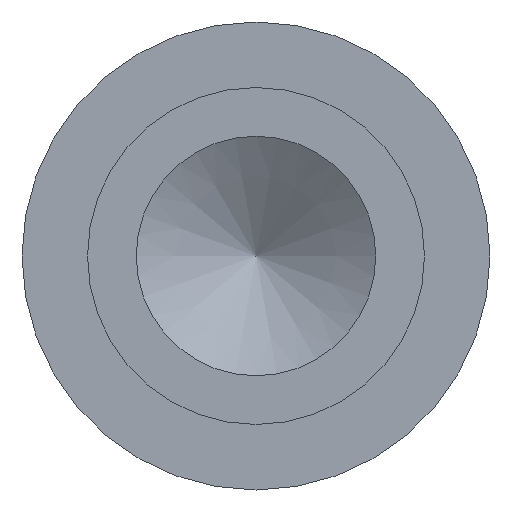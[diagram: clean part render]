
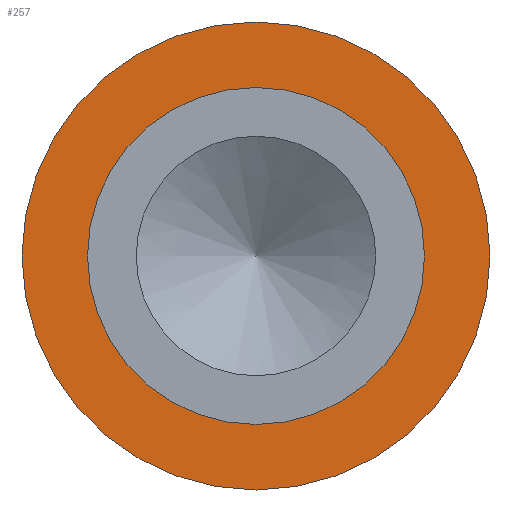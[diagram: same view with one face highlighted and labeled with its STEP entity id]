
A CAD part, left-side view. The second image highlights one B-rep face of the part: STEP entity #257.
In plain terms, the highlighted planar face has unit normal (-1, 0, 0).
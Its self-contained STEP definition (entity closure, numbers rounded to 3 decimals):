
#19=PLANE($,#289);
#30=FACE_BOUND($,#91,.T.);
#67=FACE_OUTER_BOUND($,#90,.T.);
#90=EDGE_LOOP($,(#210));
#91=EDGE_LOOP($,(#211));
#135=CIRCLE($,#287,1.143);
#137=CIRCLE($,#290,1.588);
#159=VERTEX_POINT($,#439);
#161=VERTEX_POINT($,#444);
#183=EDGE_CURVE($,#159,#159,#135,.T.);
#185=EDGE_CURVE($,#161,#161,#137,.T.);
#210=ORIENTED_EDGE($,*,*,#185,.F.);
#211=ORIENTED_EDGE($,*,*,#183,.T.);
#257=ADVANCED_FACE($,(#67,#30),#19,.T.);
#287=AXIS2_PLACEMENT_3D($,#440,#343,#344);
#289=AXIS2_PLACEMENT_3D($,#443,#347,#348);
#290=AXIS2_PLACEMENT_3D($,#445,#349,#350);
#343=DIRECTION('center_axis',(1.,0.,0.));
#344=DIRECTION('ref_axis',(0.,1.,0.));
#347=DIRECTION('center_axis',(-1.,0.,0.));
#348=DIRECTION('ref_axis',(0.,0.,1.));
#349=DIRECTION('center_axis',(1.,0.,0.));
#350=DIRECTION('ref_axis',(0.,1.,0.));
#439=CARTESIAN_POINT('',(3.175,1.143,0.));
#440=CARTESIAN_POINT('Origin',(3.175,0.,0.));
#443=CARTESIAN_POINT('Origin',(3.175,1.365,0.));
#444=CARTESIAN_POINT('',(3.175,1.588,0.));
#445=CARTESIAN_POINT('Origin',(3.175,0.,0.));
